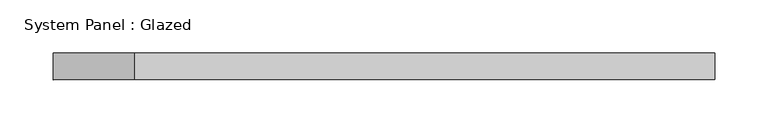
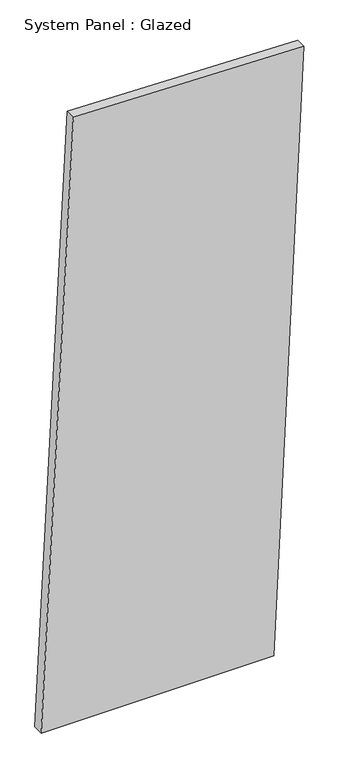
"""IFC4 building model written with IfcOpenShell, lengths in millimetres: plate geometry, System Panel : Glazed."""

from ifc_helpers import new_model, si_unit, frame, origin, place, context, project, spatial, polyline, outline, extrude, source, transform, mapped, element, save


def system_panel_glazed_da246a73(model_context):
    return source(origin(), model_context, "Body", "SweptSolid", [
        extrude(outline(polyline([(0.0, -311.9349857), (0.0, 240.7236692), (1504.550795, 311.9349857), (1517.8003423, -235.4938967), (0.0, -311.9349857)])), frame((0.0, -44.45, 0.0), z_axis=(0.0, 1.0, 0.0), x_axis=(0.0, 0.0, 1.0)), (0.0, 0.0, 1.0), 25.4),
    ])


if __name__ == "__main__":
    model = new_model("IFC4")
    model_context = context("Model", 3, world=origin())
    ifc_project = project(units=[si_unit("LENGTHUNIT", "METRE", prefix="MILLI")], contexts=[model_context])
    site = spatial("IfcSite", under=ifc_project)
    building = spatial("IfcBuilding", under=site)
    placement = place(None, origin())
    system_panel_glazed_shape = system_panel_glazed_da246a73(model_context)
    element("IfcPlate", 1, ObjectType="System Panel : Glazed", at=placement, inside=building, context=model_context, shape_type="MappedRepresentation", body=[
        mapped(system_panel_glazed_shape, transform((0.0, 0.0, 0.0), x_axis=(1.0, 0.0, 0.0), y_axis=(0.0, 1.0, 0.0), z_axis=(0.0, 0.0, 1.0))),
    ])
    save(model, "model.ifc")
